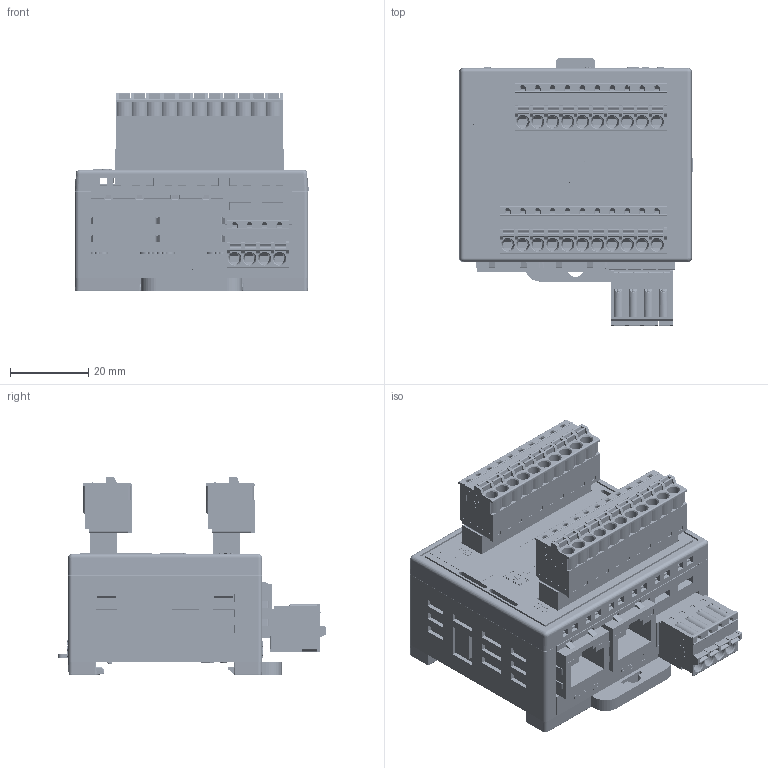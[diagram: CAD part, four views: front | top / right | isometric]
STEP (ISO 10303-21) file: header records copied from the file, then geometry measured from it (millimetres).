
FILE_DESCRIPTION((''),'2;1');
FILE_NAME('ECCBPF0W','2026-05-11T14:36:02',('gijyu181'),(''),'CREO PARAMETRIC BY PTC INC, 2018050','CREO PARAMETRIC BY PTC INC, 2018050','');
FILE_SCHEMA(('CONFIG_CONTROL_DESIGN','SHAPE_APPEARANCE_LAYERS_GROUPS'));
Products named in the file (1): ECCBPF0W
Bounding box: 59.75 x 68.55 x 50.7 mm (x, y, z)
Volume: 71057.8 mm3; surface area: 53372.4 mm2
Topology: 1 solids, 53 shells, 9982 faces, 27937 edges, 18372 vertices
Faces by surface type: plane 7167, cylinder 1604, extrusion 743, cone 274, sphere 94, torus 76, bspline 24
Entity records: 434592 total; most frequent: CARTESIAN_POINT 80807, ORIENTED_EDGE 54564, DIRECTION 47387, EDGE_CURVE 27923, VECTOR 22547, PRESENTATION_STYLE_ASSIGNMENT 22067, LINE 21804, STYLED_ITEM 18841
